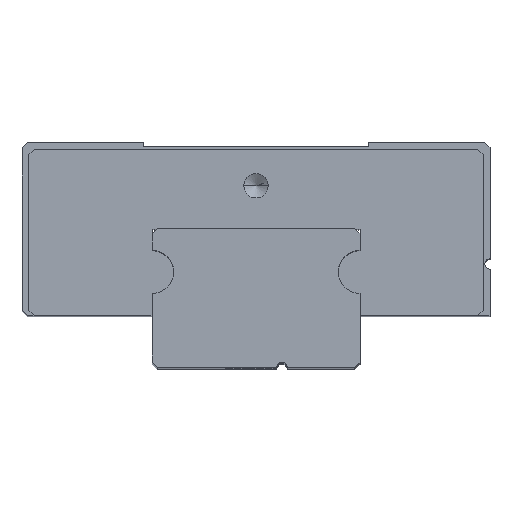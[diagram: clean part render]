
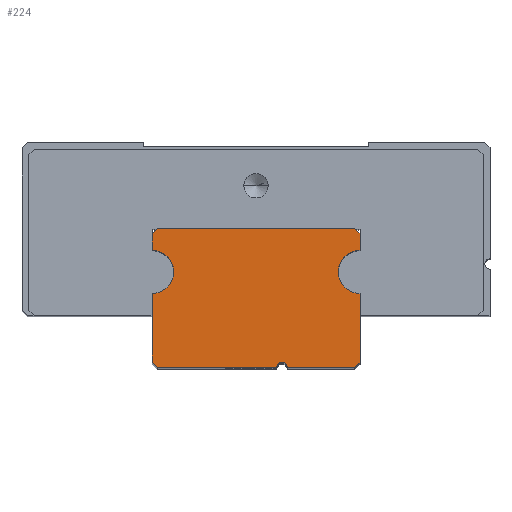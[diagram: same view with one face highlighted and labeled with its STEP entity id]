
A CAD part, top view. The second image highlights one B-rep face of the part: STEP entity #224.
In plain terms, the highlighted planar face has unit normal (0, 0, 1).
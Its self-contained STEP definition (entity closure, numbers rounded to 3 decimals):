
#38 = CARTESIAN_POINT ( 'NONE',  ( 6., 5.5, 35. ) ) ;
#47 = CARTESIAN_POINT ( 'NONE',  ( 6., 0., 35. ) ) ;
#112 = VERTEX_POINT ( 'NONE', #311 ) ;
#120 = EDGE_CURVE ( 'NONE', #2463, #3099, #3912, .T. ) ;
#131 = VERTEX_POINT ( 'NONE', #2406 ) ;
#141 = CARTESIAN_POINT ( 'NONE',  ( -6., 0.3, 35. ) ) ;
#143 = CARTESIAN_POINT ( 'NONE',  ( 1.5, 0., 35. ) ) ;
#154 = LINE ( 'NONE', #2644, #2004 ) ;
#210 = LINE ( 'NONE', #561, #3714 ) ;
#224 = ADVANCED_FACE ( 'NONE', ( #1574 ), #1908, .F. ) ;
#283 = LINE ( 'NONE', #692, #2993 ) ;
#301 = LINE ( 'NONE', #4241, #3347 ) ;
#311 = CARTESIAN_POINT ( 'NONE',  ( -6., 4.25, 35. ) ) ;
#333 = CARTESIAN_POINT ( 'NONE',  ( -6., 7.7, 35. ) ) ;
#377 = EDGE_CURVE ( 'NONE', #4221, #1810, #816, .T. ) ;
#413 = CARTESIAN_POINT ( 'NONE',  ( 6., 0., 35. ) ) ;
#436 = DIRECTION ( 'NONE',  ( 0., 0., -1. ) ) ;
#518 = EDGE_CURVE ( 'NONE', #131, #763, #2054, .T. ) ;
#547 = CARTESIAN_POINT ( 'NONE',  ( 6., 5.5, 35. ) ) ;
#554 = CARTESIAN_POINT ( 'NONE',  ( 6., 4.25, 35. ) ) ;
#561 = CARTESIAN_POINT ( 'NONE',  ( -6., 0., 35. ) ) ;
#568 = EDGE_CURVE ( 'NONE', #4195, #2751, #210, .T. ) ;
#692 = CARTESIAN_POINT ( 'NONE',  ( 1.5, 0., 35. ) ) ;
#762 = VECTOR ( 'NONE', #4228, 1000. ) ;
#763 = VERTEX_POINT ( 'NONE', #3282 ) ;
#806 = CARTESIAN_POINT ( 'NONE',  ( -5.7, 8., 35. ) ) ;
#816 = LINE ( 'NONE', #413, #4170 ) ;
#827 = VECTOR ( 'NONE', #3944, 1000. ) ;
#851 = ORIENTED_EDGE ( 'NONE', *, *, #1645, .T. ) ;
#860 = CARTESIAN_POINT ( 'NONE',  ( -6., 6.75, 35. ) ) ;
#870 = CIRCLE ( 'NONE', #2306, 1.25 ) ;
#881 = EDGE_CURVE ( 'NONE', #2323, #3931, #154, .T. ) ;
#912 = EDGE_CURVE ( 'NONE', #1106, #2751, #3374, .T. ) ;
#914 = VERTEX_POINT ( 'NONE', #4114 ) ;
#926 = DIRECTION ( 'NONE',  ( 0., 0., -1. ) ) ;
#997 = DIRECTION ( 'NONE',  ( -1., 0., 0. ) ) ;
#1103 = AXIS2_PLACEMENT_3D ( 'NONE', #2467, #2538, #3209 ) ;
#1106 = VERTEX_POINT ( 'NONE', #806 ) ;
#1216 = EDGE_CURVE ( 'NONE', #2463, #763, #283, .T. ) ;
#1293 = DIRECTION ( 'NONE',  ( -0.707, -0.707, 0. ) ) ;
#1295 = LINE ( 'NONE', #4174, #2508 ) ;
#1338 = CARTESIAN_POINT ( 'NONE',  ( 4.75, 5.5, 35. ) ) ;
#1353 = LINE ( 'NONE', #2802, #762 ) ;
#1378 = EDGE_CURVE ( 'NONE', #131, #3931, #2710, .T. ) ;
#1556 = CIRCLE ( 'NONE', #1103, 1.25 ) ;
#1574 = FACE_OUTER_BOUND ( 'NONE', #4250, .T. ) ;
#1645 = EDGE_CURVE ( 'NONE', #914, #1106, #1353, .T. ) ;
#1663 = CARTESIAN_POINT ( 'NONE',  ( 1.5, 0., 35. ) ) ;
#1731 = ORIENTED_EDGE ( 'NONE', *, *, #120, .T. ) ;
#1748 = CARTESIAN_POINT ( 'NONE',  ( 6., 0.3, 35. ) ) ;
#1778 = ORIENTED_EDGE ( 'NONE', *, *, #2395, .F. ) ;
#1810 = VERTEX_POINT ( 'NONE', #4529 ) ;
#1865 = DIRECTION ( 'NONE',  ( 0., 0., 1. ) ) ;
#1905 = VECTOR ( 'NONE', #4199, 1000. ) ;
#1908 = PLANE ( 'NONE',  #3198 ) ;
#1921 = CARTESIAN_POINT ( 'NONE',  ( 5.7, 0., 35. ) ) ;
#1975 = DIRECTION ( 'NONE',  ( 0., 0., 1. ) ) ;
#2004 = VECTOR ( 'NONE', #3733, 1000. ) ;
#2015 = DIRECTION ( 'NONE',  ( 0., 1., 0. ) ) ;
#2047 = EDGE_CURVE ( 'NONE', #4221, #914, #301, .T. ) ;
#2054 = CIRCLE ( 'NONE', #3117, 0.3 ) ;
#2141 = DIRECTION ( 'NONE',  ( -1., 0., 0. ) ) ;
#2249 = DIRECTION ( 'NONE',  ( 0., -1., 0. ) ) ;
#2282 = EDGE_CURVE ( 'NONE', #1810, #3816, #870, .T. ) ;
#2306 = AXIS2_PLACEMENT_3D ( 'NONE', #38, #1865, #997 ) ;
#2323 = VERTEX_POINT ( 'NONE', #141 ) ;
#2395 = EDGE_CURVE ( 'NONE', #112, #4195, #1556, .T. ) ;
#2406 = CARTESIAN_POINT ( 'NONE',  ( 1.2, 0., 35. ) ) ;
#2418 = CIRCLE ( 'NONE', #4225, 1.25 ) ;
#2463 = VERTEX_POINT ( 'NONE', #1921 ) ;
#2467 = CARTESIAN_POINT ( 'NONE',  ( -6., 5.5, 35. ) ) ;
#2508 = VECTOR ( 'NONE', #2015, 1000. ) ;
#2538 = DIRECTION ( 'NONE',  ( 0., 0., 1. ) ) ;
#2543 = EDGE_CURVE ( 'NONE', #3816, #3959, #2418, .T. ) ;
#2596 = ORIENTED_EDGE ( 'NONE', *, *, #2047, .T. ) ;
#2613 = ORIENTED_EDGE ( 'NONE', *, *, #2543, .F. ) ;
#2644 = CARTESIAN_POINT ( 'NONE',  ( -5.7, 0., 35. ) ) ;
#2710 = LINE ( 'NONE', #143, #3874 ) ;
#2751 = VERTEX_POINT ( 'NONE', #333 ) ;
#2756 = ORIENTED_EDGE ( 'NONE', *, *, #518, .T. ) ;
#2772 = DIRECTION ( 'NONE',  ( 0., 1., 0. ) ) ;
#2802 = CARTESIAN_POINT ( 'NONE',  ( 6., 8., 35. ) ) ;
#2844 = ORIENTED_EDGE ( 'NONE', *, *, #4425, .F. ) ;
#2853 = ORIENTED_EDGE ( 'NONE', *, *, #881, .T. ) ;
#2884 = ORIENTED_EDGE ( 'NONE', *, *, #1378, .F. ) ;
#2993 = VECTOR ( 'NONE', #2141, 1000. ) ;
#3061 = DIRECTION ( 'NONE',  ( -1., 0., 0. ) ) ;
#3081 = ORIENTED_EDGE ( 'NONE', *, *, #1216, .F. ) ;
#3099 = VERTEX_POINT ( 'NONE', #3684 ) ;
#3117 = AXIS2_PLACEMENT_3D ( 'NONE', #3670, #436, #4159 ) ;
#3178 = ORIENTED_EDGE ( 'NONE', *, *, #568, .F. ) ;
#3198 = AXIS2_PLACEMENT_3D ( 'NONE', #1663, #926, #3456 ) ;
#3209 = DIRECTION ( 'NONE',  ( -1., 0., 0. ) ) ;
#3254 = EDGE_CURVE ( 'NONE', #2323, #112, #1295, .T. ) ;
#3272 = LINE ( 'NONE', #47, #827 ) ;
#3282 = CARTESIAN_POINT ( 'NONE',  ( 1.8, 0., 35. ) ) ;
#3306 = CARTESIAN_POINT ( 'NONE',  ( -5.7, 0., 35. ) ) ;
#3347 = VECTOR ( 'NONE', #4619, 1000. ) ;
#3374 = LINE ( 'NONE', #4173, #4112 ) ;
#3456 = DIRECTION ( 'NONE',  ( 0., -1., 0. ) ) ;
#3623 = ORIENTED_EDGE ( 'NONE', *, *, #377, .F. ) ;
#3670 = CARTESIAN_POINT ( 'NONE',  ( 1.5, 0., 35. ) ) ;
#3684 = CARTESIAN_POINT ( 'NONE',  ( 6., 0.3, 35. ) ) ;
#3714 = VECTOR ( 'NONE', #2772, 1000. ) ;
#3733 = DIRECTION ( 'NONE',  ( 0.707, -0.707, 0. ) ) ;
#3816 = VERTEX_POINT ( 'NONE', #1338 ) ;
#3874 = VECTOR ( 'NONE', #3061, 1000. ) ;
#3912 = LINE ( 'NONE', #1748, #1905 ) ;
#3931 = VERTEX_POINT ( 'NONE', #3306 ) ;
#3944 = DIRECTION ( 'NONE',  ( 0., -1., 0. ) ) ;
#3959 = VERTEX_POINT ( 'NONE', #554 ) ;
#4054 = ORIENTED_EDGE ( 'NONE', *, *, #912, .T. ) ;
#4112 = VECTOR ( 'NONE', #1293, 1000. ) ;
#4114 = CARTESIAN_POINT ( 'NONE',  ( 5.7, 8., 35. ) ) ;
#4134 = DIRECTION ( 'NONE',  ( -1., 0., 0. ) ) ;
#4144 = ORIENTED_EDGE ( 'NONE', *, *, #2282, .F. ) ;
#4159 = DIRECTION ( 'NONE',  ( -1., 0., 0. ) ) ;
#4170 = VECTOR ( 'NONE', #2249, 1000. ) ;
#4173 = CARTESIAN_POINT ( 'NONE',  ( -6., 7.7, 35. ) ) ;
#4174 = CARTESIAN_POINT ( 'NONE',  ( -6., 0., 35. ) ) ;
#4195 = VERTEX_POINT ( 'NONE', #860 ) ;
#4199 = DIRECTION ( 'NONE',  ( 0.707, 0.707, 0. ) ) ;
#4221 = VERTEX_POINT ( 'NONE', #4562 ) ;
#4225 = AXIS2_PLACEMENT_3D ( 'NONE', #547, #1975, #4134 ) ;
#4228 = DIRECTION ( 'NONE',  ( -1., 0., 0. ) ) ;
#4241 = CARTESIAN_POINT ( 'NONE',  ( 5.7, 8., 35. ) ) ;
#4250 = EDGE_LOOP ( 'NONE', ( #4376, #2853, #2884, #2756, #3081, #1731, #2844, #2613, #4144, #3623, #2596, #851, #4054, #3178, #1778 ) ) ;
#4376 = ORIENTED_EDGE ( 'NONE', *, *, #3254, .F. ) ;
#4425 = EDGE_CURVE ( 'NONE', #3959, #3099, #3272, .T. ) ;
#4529 = CARTESIAN_POINT ( 'NONE',  ( 6., 6.75, 35. ) ) ;
#4562 = CARTESIAN_POINT ( 'NONE',  ( 6., 7.7, 35. ) ) ;
#4619 = DIRECTION ( 'NONE',  ( -0.707, 0.707, 0. ) ) ;
